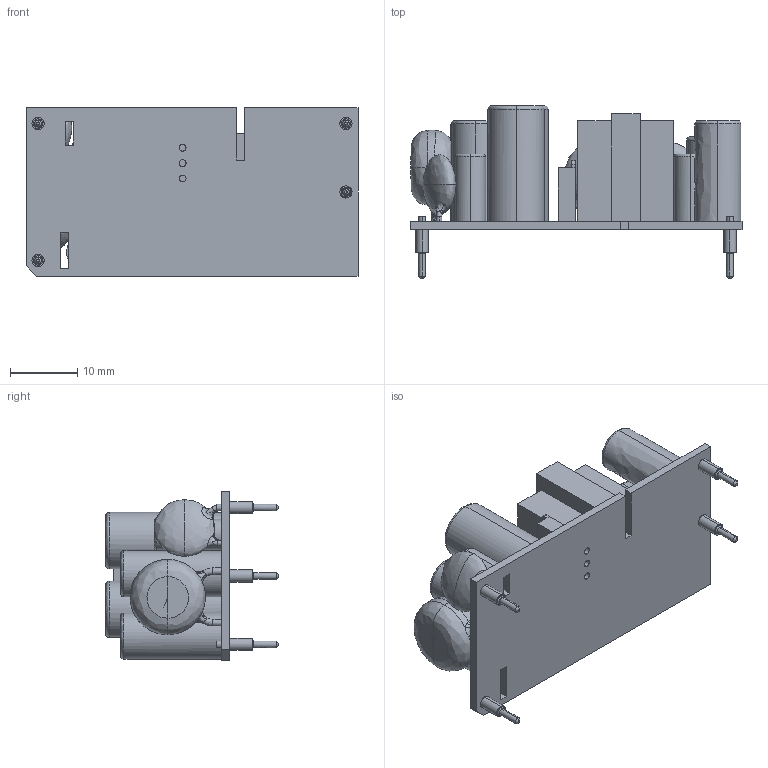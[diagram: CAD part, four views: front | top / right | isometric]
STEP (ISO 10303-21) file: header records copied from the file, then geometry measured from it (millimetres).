
FILE_DESCRIPTION (( 'STEP AP214' ), '1' );
FILE_NAME ('EHL05-P.STEP', '2023-07-17T08:39:10', ( '' ), ( '' ), 'SwSTEP 2.0', 'SolidWorks 2022', '' );
FILE_SCHEMA (( 'AUTOMOTIVE_DESIGN' ));
Length unit declared in the file: millimetre
Products named in the file (4): EHL05-P.IGS; EHL05-P; EHL05-P PCB.IGS; EHL05_PIN.IGS
Assembly tree (6 placements, depth 3):
  EHL05-P
    EHL05-P.IGS
      EHL05-P PCB.IGS
      EHL05_PIN.IGS  x4
Bounding box: 49.3 x 25.6 x 25 mm (x, y, z)
Surface area: 7401.6 mm2
Topology: 4 solids, 6 shells, 274 faces, 671 edges, 410 vertices
Faces by surface type: bspline 274
Entity records: 12680 total; most frequent: CARTESIAN_POINT 9250, ORIENTED_EDGE 1126, EDGE_CURVE 570, B_SPLINE_CURVE_WITH_KNOTS 369, VERTEX_POINT 362, EDGE_LOOP 275, FACE_OUTER_BOUND 232, ADVANCED_FACE 232
